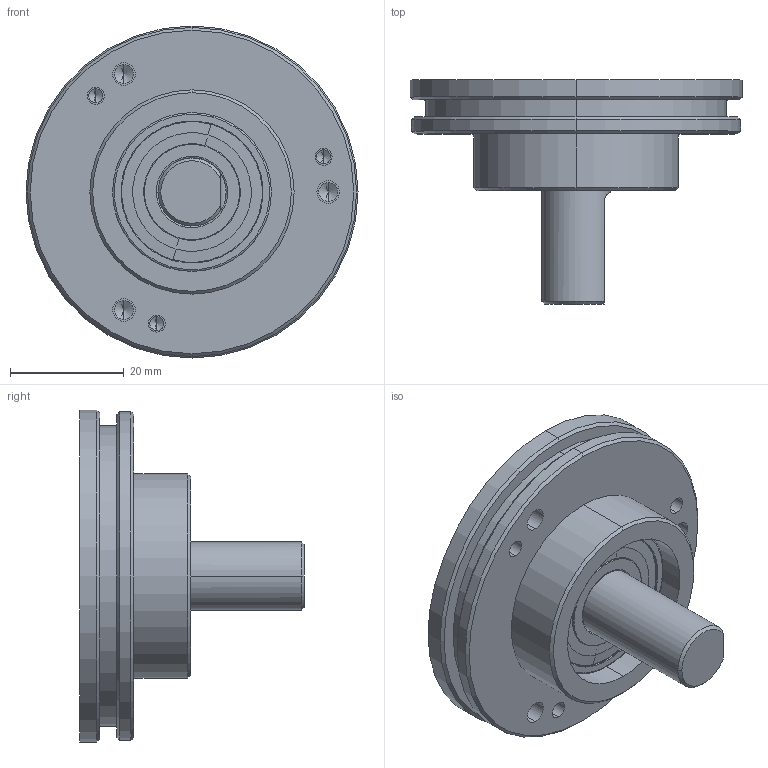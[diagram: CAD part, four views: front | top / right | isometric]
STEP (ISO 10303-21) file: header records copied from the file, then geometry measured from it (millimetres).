
FILE_DESCRIPTION (( 'STEP AP214' ), '1' );
FILE_NAME ('OCD-C120-C5Y-N.STEP', '2013-02-26T13:55:22', ( '' ), ( '' ), 'SwSTEP 2.0', 'SolidWorks 2006104', '' );
FILE_SCHEMA (( 'AUTOMOTIVE_DESIGN' ));
Length unit declared in the file: millimetre
Products named in the file (1): OCD-C120-C5Y-N
Bounding box: 58.5 x 39.5 x 58.5 mm (x, y, z)
Volume: 30231.6 mm3; surface area: 15983.5 mm2
Topology: 4 solids, 10 shells, 182 faces, 379 edges, 214 vertices
Faces by surface type: cylinder 71, cone 42, torus 40, plane 29
Entity records: 6778 total; most frequent: DIRECTION 957, CARTESIAN_POINT 792, ORIENTED_EDGE 714, AXIS2_PLACEMENT_3D 421, EDGE_CURVE 357, CIRCLE 238, VERTEX_POINT 214, EDGE_LOOP 209
